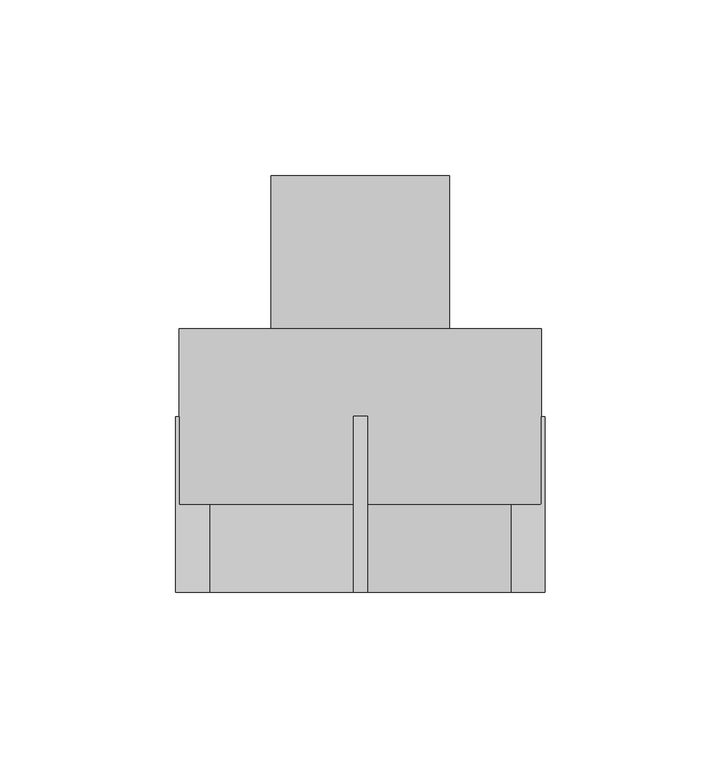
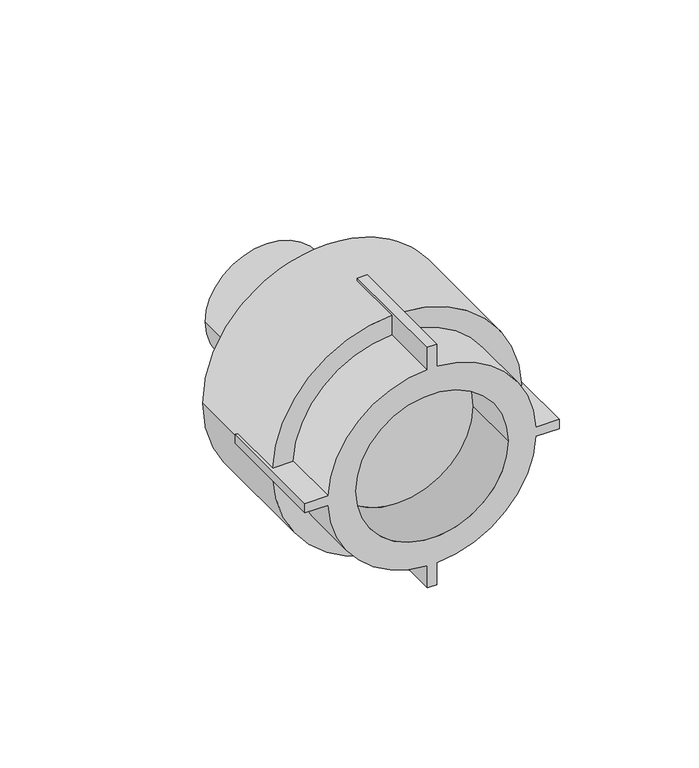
"""IFC4 building model written with IfcOpenShell, lengths in millimetres: pipe fitting geometry, EGB_VASEN_ PPR_Entronque rosca macho WXR101 : Entronque rosca macho WXR101."""

from ifc_helpers import new_model, si_unit, point, frame, origin, origin_2d, place, context, project, spatial, polyline, circle_curve, trimmed, segment, composite_curve, outline, extrude, source, transform, mapped, element, save
from ifc_brep_helpers import plane_surface, cylinder_surface, revolved_surface, advanced_brep


def pipe_fitting_d1c7a269(model_context):
    return source(origin(), model_context, "Body", "SolidModel", [
        advanced_brep(
        [(2.0, -25.0, 52.6), (-2.0, -25.0, 52.6), (-2.0, -25.0, 42.9534632), (-42.9534632, -25.0, 2.0), (-52.6, -25.0, 2.0), (-52.6, -25.0, -2.0), (-42.9534632, -25.0, -2.0), (-2.0, -25.0, -42.9534632), (-2.0, -25.0, -52.6), (2.0, -25.0, -52.6), (2.0, -25.0, -42.9534632), (42.9534632, -25.0, -2.0), (52.6, -25.0, -2.0), (52.6, -25.0, 2.0), (42.9534632, -25.0, 2.0), (2.0, -25.0, 42.9534632), (-31.5, -25.0, 0.0), (31.5, -25.0, 0.0), (-2.0, 25.0, 52.6), (2.0, 25.0, 52.6), (2.0, 25.0, 51.5612257), (-2.0, 25.0, 51.5612257), (2.0, 25.0, -52.6), (-2.0, 25.0, -52.6), (-2.0, 25.0, -51.5612257), (2.0, 25.0, -51.5612257), (52.6, 25.0, 2.0), (52.6, 25.0, -2.0), (51.5612257, 25.0, -2.0), (51.6, 25.0, 0.0), (51.5612257, 25.0, 2.0), (-52.6, 25.0, -2.0), (-52.6, 25.0, 2.0), (-51.5612257, 25.0, 2.0), (-51.6, 25.0, 0.0), (-51.5612257, 25.0, -2.0), (2.0, 0.0, 42.9534632), (2.0, 0.0, 51.5612257), (-2.0, 0.0, 51.5612257), (-2.0, 0.0, 42.9534632), (2.0, 0.0, -51.5612257), (2.0, 0.0, -42.9534632), (-2.0, 0.0, -42.9534632), (-2.0, 0.0, -51.5612257), (42.9534632, 0.0, -2.0), (51.5612257, 0.0, -2.0), (51.5612257, 0.0, 2.0), (42.9534632, 0.0, 2.0), (-51.5612257, 0.0, -2.0), (-42.9534632, 0.0, -2.0), (-42.9534632, 0.0, 2.0), (-51.5612257, 0.0, 2.0), (-31.5, 0.0, 0.0), (31.5, 0.0, 0.0), (-51.6, 50.0, 0.0), (51.6, 50.0, 0.0)],
        [
            (0, 1),
            (1, 2),
            (2, 3, circle_curve(frame((0.0, -25.0, 0.0), z_axis=(0.0, -1.0, 0.0), x_axis=(1.0, 0.0, 0.0)), 43.0)),
            (3, 4),
            (4, 5),
            (5, 6),
            (6, 7, circle_curve(frame((0.0, -25.0, 0.0), z_axis=(0.0, -1.0, 0.0), x_axis=(1.0, 0.0, 0.0)), 43.0)),
            (7, 8),
            (8, 9),
            (9, 10),
            (10, 11, circle_curve(frame((0.0, -25.0, 0.0), z_axis=(0.0, -1.0, 0.0), x_axis=(1.0, 0.0, 0.0)), 43.0)),
            (11, 12),
            (12, 13),
            (13, 14),
            (14, 15, circle_curve(frame((0.0, -25.0, 0.0), z_axis=(0.0, -1.0, 0.0), x_axis=(1.0, 0.0, 0.0)), 43.0)),
            (15, 0),
            (16, 17, circle_curve(frame((0.0, -25.0, 0.0), z_axis=(0.0, 1.0, 0.0), x_axis=(1.0, 0.0, 0.0)), 31.5)),
            (17, 16, circle_curve(frame((0.0, -25.0, 0.0), z_axis=(0.0, 1.0, 0.0), x_axis=(1.0, 0.0, 0.0)), 31.5)),
            (18, 19),
            (19, 20),
            (20, 21, circle_curve(frame((0.0, 25.0, 0.0), z_axis=(0.0, -1.0, 0.0), x_axis=(1.0, 0.0, 0.0)), 51.6)),
            (21, 18),
            (22, 23),
            (23, 24),
            (24, 25, circle_curve(frame((0.0, 25.0, 0.0), z_axis=(0.0, -1.0, 0.0), x_axis=(1.0, 0.0, 0.0)), 51.6)),
            (25, 22),
            (26, 27),
            (27, 28),
            (28, 29, circle_curve(frame((0.0, 25.0, 0.0), z_axis=(0.0, -1.0, 0.0), x_axis=(1.0, 0.0, 0.0)), 51.6)),
            (29, 30, circle_curve(frame((0.0, 25.0, 0.0), z_axis=(0.0, -1.0, 0.0), x_axis=(1.0, 0.0, 0.0)), 51.6)),
            (30, 26),
            (31, 32),
            (32, 33),
            (33, 34, circle_curve(frame((0.0, 25.0, 0.0), z_axis=(0.0, -1.0, 0.0), x_axis=(1.0, 0.0, 0.0)), 51.6)),
            (34, 35, circle_curve(frame((0.0, 25.0, 0.0), z_axis=(0.0, -1.0, 0.0), x_axis=(1.0, 0.0, 0.0)), 51.6)),
            (35, 31),
            (19, 0),
            (15, 36),
            (36, 37),
            (37, 20),
            (18, 1),
            (21, 38),
            (38, 39),
            (39, 2),
            (8, 23),
            (22, 9),
            (25, 40),
            (40, 41),
            (41, 10),
            (7, 42),
            (42, 43),
            (43, 24),
            (27, 12),
            (11, 44),
            (44, 45),
            (45, 28),
            (26, 13),
            (30, 46),
            (46, 47),
            (47, 14),
            (5, 31),
            (35, 48),
            (48, 49),
            (49, 6),
            (32, 4),
            (3, 50),
            (50, 51),
            (51, 33),
            (49, 42, circle_curve(frame((0.0, 0.0, 0.0), z_axis=(0.0, -1.0, 0.0), x_axis=(1.0, 0.0, 0.0)), 43.0)),
            (41, 44, circle_curve(frame((0.0, 0.0, 0.0), z_axis=(0.0, -1.0, 0.0), x_axis=(1.0, 0.0, 0.0)), 43.0)),
            (39, 50, circle_curve(frame((0.0, 0.0, 0.0), z_axis=(0.0, -1.0, 0.0), x_axis=(1.0, 0.0, 0.0)), 43.0)),
            (47, 36, circle_curve(frame((0.0, 0.0, 0.0), z_axis=(0.0, -1.0, 0.0), x_axis=(1.0, 0.0, 0.0)), 43.0)),
            (16, 52),
            (52, 53, circle_curve(frame((0.0, 0.0, 0.0), z_axis=(0.0, 1.0, 0.0), x_axis=(1.0, 0.0, 0.0)), 31.5)),
            (53, 17),
            (53, 52, circle_curve(frame((0.0, 0.0, 0.0), z_axis=(0.0, 1.0, 0.0), x_axis=(1.0, 0.0, 0.0)), 31.5)),
            (40, 45, circle_curve(frame((0.0, 0.0, 0.0), z_axis=(0.0, -1.0, 0.0), x_axis=(1.0, 0.0, 0.0)), 51.6)),
            (48, 43, circle_curve(frame((0.0, 0.0, 0.0), z_axis=(0.0, -1.0, 0.0), x_axis=(1.0, 0.0, 0.0)), 51.6)),
            (46, 37, circle_curve(frame((0.0, 0.0, 0.0), z_axis=(0.0, -1.0, 0.0), x_axis=(1.0, 0.0, 0.0)), 51.6)),
            (38, 51, circle_curve(frame((0.0, 0.0, 0.0), z_axis=(0.0, -1.0, 0.0), x_axis=(1.0, 0.0, 0.0)), 51.6)),
            (54, 55, circle_curve(frame((0.0, 50.0, 0.0), z_axis=(0.0, 1.0, 0.0), x_axis=(1.0, 0.0, 0.0)), 51.6)),
            (55, 54, circle_curve(frame((0.0, 50.0, 0.0), z_axis=(0.0, 1.0, 0.0), x_axis=(1.0, 0.0, 0.0)), 51.6)),
            (55, 29),
            (34, 54),
        ],
        [
            plane_surface(frame((0.0, -25.0, 0.0), z_axis=(0.0, -1.0, 0.0), x_axis=(0.0, 0.0, 1.0))),
            plane_surface(frame((0.0, 25.0, 0.0), z_axis=(0.0, 1.0, 0.0), x_axis=(0.0, 0.0, 1.0))),
            plane_surface(frame((2.0, -25.0, 42.0), z_axis=(1.0, 0.0, 0.0), x_axis=(0.0, 1.0, 0.0))),
            plane_surface(frame((2.0, -25.0, 52.6), z_axis=(0.0, 0.0, 1.0), x_axis=(0.0, 1.0, 0.0))),
            plane_surface(frame((-2.0, -25.0, 52.6), z_axis=(-1.0, 0.0, 0.0), x_axis=(0.0, 1.0, 0.0))),
            plane_surface(frame((-2.0, -25.0, -52.6), z_axis=(0.0, 0.0, -1.0), x_axis=(0.0, 1.0, 0.0))),
            plane_surface(frame((2.0, -25.0, -52.6), z_axis=(1.0, 0.0, 0.0), x_axis=(0.0, 1.0, 0.0))),
            plane_surface(frame((-2.0, -25.0, -42.0), z_axis=(-1.0, 0.0, 0.0), x_axis=(0.0, 1.0, 0.0))),
            plane_surface(frame((42.0, -25.0, -2.0), z_axis=(0.0, 0.0, -1.0), x_axis=(0.0, 1.0, 0.0))),
            plane_surface(frame((52.6, -25.0, -2.0), z_axis=(1.0, 0.0, 0.0), x_axis=(0.0, 1.0, 0.0))),
            plane_surface(frame((52.6, -25.0, 2.0), z_axis=(0.0, 0.0, 1.0), x_axis=(0.0, 1.0, 0.0))),
            plane_surface(frame((-52.6, -25.0, -2.0), z_axis=(0.0, 0.0, -1.0), x_axis=(0.0, 1.0, 0.0))),
            plane_surface(frame((-42.0, -25.0, 2.0), z_axis=(0.0, 0.0, 1.0), x_axis=(0.0, 1.0, 0.0))),
            plane_surface(frame((-52.6, -25.0, 2.0), z_axis=(-1.0, 0.0, 0.0), x_axis=(0.0, 1.0, 0.0))),
            cylinder_surface(frame((0.0, 0.0, 0.0), z_axis=(0.0, -1.0, 0.0), x_axis=(1.0, 0.0, 0.0)), 43.0),
            revolved_surface(polyline([(31.5, 0.0, 0.0), (31.5, -25.0, 0.0)]), (0.0, 0.0, 0.0), (0.0, 1.0, 0.0)),
            plane_surface(frame((51.6, 0.0, 0.0), z_axis=(0.0, -1.0, 0.0), x_axis=(0.0, 0.0, 1.0))),
            plane_surface(frame((51.6, 50.0, 0.0), z_axis=(0.0, 1.0, 0.0), x_axis=(0.0, 0.0, -1.0))),
            cylinder_surface(frame((0.0, 50.0, 0.0), z_axis=(0.0, -1.0, 0.0), x_axis=(1.0, 0.0, 0.0)), 51.6),
        ],
        [
            (0, [[1, 2, 3, 4, 5, 6, 7, 8, 9, 10, 11, 12, 13, 14, 15, 16], [17, 18]]),
            (1, [[19, 20, 21, 22]]),
            (1, [[23, 24, 25, 26]]),
            (1, [[27, 28, 29, 30, 31]]),
            (1, [[32, 33, 34, 35, 36]]),
            (2, [[37, -16, 38, 39, 40, -20]]),
            (3, [[-1, -37, -19, 41]]),
            (4, [[-41, -22, 42, 43, 44, -2]]),
            (5, [[-9, 45, -23, 46]]),
            (6, [[-46, -26, 47, 48, 49, -10]]),
            (7, [[-45, -8, 50, 51, 52, -24]]),
            (8, [[53, -12, 54, 55, 56, -28]]),
            (9, [[-13, -53, -27, 57]]),
            (10, [[-57, -31, 58, 59, 60, -14]]),
            (11, [[61, -36, 62, 63, 64, -6]]),
            (12, [[65, -4, 66, 67, 68, -33]]),
            (13, [[-5, -65, -32, -61]]),
            (14, [[-7, -64, 69, -50]]),
            (14, [[-11, -49, 70, -54]]),
            (14, [[-3, -44, 71, -66]]),
            (14, [[-15, -60, 72, -38]]),
            (15, [[-17, 73, 74, 75]]),
            (15, [[-18, -75, 76, -73]]),
            (16, [[-74, -76]]),
            (16, [[77, -55, -70, -48]]),
            (16, [[78, -51, -69, -63]]),
            (16, [[79, -39, -72, -59]]),
            (16, [[80, -67, -71, -43]]),
            (17, [[81, 82]]),
            (18, [[-82, 83, -29, -56, -77, -47, -25, -52, -78, -62, -35, 84]]),
            (18, [[-81, -84, -34, -68, -80, -42, -21, -40, -79, -58, -30, -83]]),
        ],
    ),
        extrude(outline(composite_curve([segment(trimmed(circle_curve(origin_2d(), 25.4), [point((0.0, -25.4))], [point((0.0, 25.4))], False, "CARTESIAN"), True, "CONTINUOUS"), segment(trimmed(circle_curve(origin_2d(), 25.4), [point((0.0, 25.4))], [point((0.0, -25.4))], False, "CARTESIAN"), True, "CONTINUOUS")], self_intersect=False)), frame((0.0, 25.0, 0.0), z_axis=(0.0, 1.0, 0.0), x_axis=(0.0, 0.0, 1.0)), (0.0, 0.0, 1.0), 68.5),
    ])


if __name__ == "__main__":
    model = new_model("IFC4")
    model_context = context("Model", 3, world=origin())
    ifc_project = project(units=[si_unit("LENGTHUNIT", "METRE", prefix="MILLI")], contexts=[model_context])
    site = spatial("IfcSite", under=ifc_project)
    building = spatial("IfcBuilding", under=site)
    placement = place(None, origin())
    pipe_fitting_shape = pipe_fitting_d1c7a269(model_context)
    element("IfcPipeFitting", 1, ObjectType="EGB_VASEN_ PPR_Entronque rosca macho WXR101 : Entronque rosca macho WXR101", at=placement, inside=building, context=model_context, shape_type="MappedRepresentation", body=[
        mapped(pipe_fitting_shape, transform((0.0, 0.0, 0.0), x_axis=(1.0, 0.0, 0.0), y_axis=(0.0, 1.0, 0.0), z_axis=(0.0, 0.0, 1.0))),
    ])
    save(model, "model.ifc")
